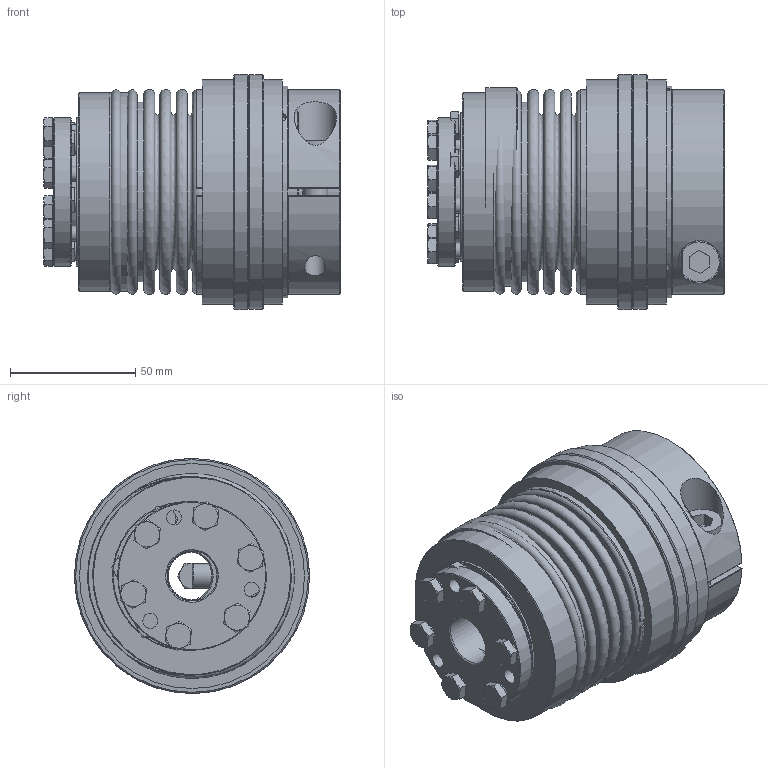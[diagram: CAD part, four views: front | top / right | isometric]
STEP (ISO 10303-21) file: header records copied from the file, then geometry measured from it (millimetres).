
FILE_DESCRIPTION( ( 'Unknown' ), '1' );
FILE_NAME( 'C:/Dokumente und Einstellungen/SKarpstein/Desktop/Korrigierte 3D Modelle/KBK-B-IK/KBK-BIK-150-119.stp', 'Unknown', ( 'Unknown' ), ( 'Unknown' ), 'XStep 1.0', 'Unknown', ' ' );
FILE_SCHEMA( ( 'automotive_design' ) );
Length unit declared in the file: millimetre
Products named in the file (13): Assem1; Assem2; Assem3; Hex Screw GradeC_ISO_ISO 4018 - M6 x 25-WN_4; BA80-150_Standard_4; KB80-150_Standard_4; Zylinderschraube DIN 912_1; Stellring 80; Druckring 80; KBK L-K-80 Grundkörper; Klemmnabe 80; Flansch BK150; BL80-150_Standard_3
Bounding box: 118.65 x 94 x 94 mm (x, y, z)
Volume: 909527.1 mm3; surface area: 390635.5 mm2
Topology: 34 solids, 34 shells, 758 faces, 1584 edges, 991 vertices
Faces by surface type: plane 367, cone 176, cylinder 164, torus 51
Full cylindrical faces by diameter (mm): 3.242 x6, 5 x8, 5.2 x6, 6 x40, 6.6 x18, 8.376 x2, 10 x16, 10.5 x2, 16 x3, 17 x2, 19 x2, 20 x3, 37.5 x2, 40 x4, 41 x3, 42 x2, 48 x2, 52 x2, 58 x3, 59.5 x3, 62 x4, 70 x2, 70.7 x4, 71.9 x4, 79.5 x3, 85 x2, 87 x2, 90 x4, 94 x2
Entity records: 6128 total; most frequent: CARTESIAN_POINT 1427, DIRECTION 960, ORIENTED_EDGE 630, AXIS2_PLACEMENT_3D 446, EDGE_LOOP 430, EDGE_CURVE 315, FACE_OUTER_BOUND 302, VERTEX_POINT 269
